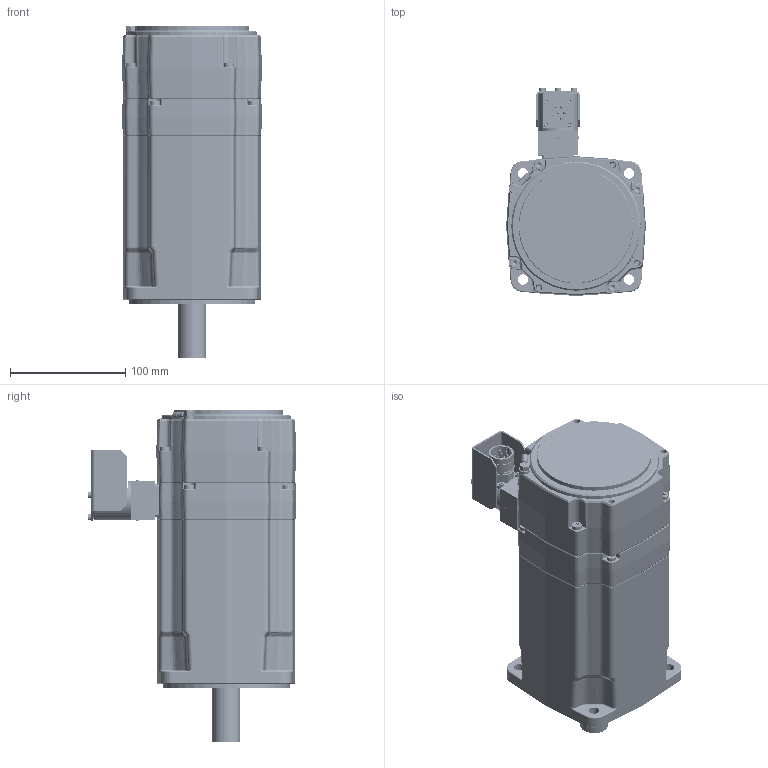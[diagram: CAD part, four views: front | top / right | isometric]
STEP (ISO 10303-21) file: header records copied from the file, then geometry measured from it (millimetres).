
FILE_DESCRIPTION((''),'2;1');
FILE_NAME('EY630EYR7010_ASM','2017-09-29T',('pf73167'),(''),'PRO/ENGINEER BY PARAMETRIC TECHNOLOGY CORPORATION, 2009400','PRO/ENGINEER BY PARAMETRIC TECHNOLOGY CORPORATION, 2009400','');
FILE_SCHEMA(('CONFIG_CONTROL_DESIGN'));
Length unit declared in the file: millimetre
Products named in the file (42): 344187P0020; 5116P1315; 301026P0030; 1150P0412; 344185P0002; 344182P0002; 344212P0001; 344182P0002_ASM; 220087P0013; 344186R0002_ASM; 5116P1319; 1645P0018; 1711P0019; 344181P0002; 344226R3000; 344562P0001; 344570P0001_ENROULE; 344229R3000_ASM; 344183P0005; 344184R3008_ASM; 1143P0515; 5320P0028; 5340P0002; 344191P0022; 1642P0105; 6620P0014; 1145P0508; 345359P0002; 5340P0124; 5340P0125; 1150P0204; 345359P0001; 1170P0042; 220132P1010_0001; 220132P1010_0002; 220132P0111; 220132P0120; 220132P1010_ASM; 345359P0003; 1150P0305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
Assembly tree (106 placements, depth 4):
  EY630EYR7010_ASM
    344187P0020
    5116P1315
    301026P0030
    1150P0412  x3
    344186R0002_ASM
      344185P0002
      344182P0002_ASM
        344182P0002
        344212P0001  x2
      220087P0013  x30
    5116P1319
    1645P0018  x2
    1711P0019
    344184R3008_ASM
      344229R3000_ASM
        344181P0002
        344226R3000  x6
        344562P0001  x2
        344570P0001_ENROULE  x2
      344183P0005
    1143P0515  x8
    5320P0028
    5340P0002  x2
    344191P0022
    1642P0105
    6620P0014
    1145P0508
    345359R1010_800_ASM
      345359P0002
      5340P0124
      5340P0125
      1150P0204  x8
      345359P0001
      1170P0042  x4
      220132P1010_ASM
        220132P1010_0001
        220132P1010_0002
        220132P0111  x4
        220132P0120  x3
      345359P0003
      1150P0305  x3
Bounding box: 121 x 180.2 x 287.6 mm (x, y, z)
Volume: 1930647.3 mm3; surface area: 729542.6 mm2
Topology: 104 solids, 168 shells, 6391 faces, 15277 edges, 9279 vertices
Faces by surface type: cylinder 2230, plane 1961, bspline 1014, cone 750, torus 385, sphere 31, extrusion 20
Entity records: 148842 total; most frequent: CARTESIAN_POINT 54420, ORIENTED_EDGE 19714, DIRECTION 19273, EDGE_CURVE 9899, AXIS2_PLACEMENT_3D 7291, VERTEX_POINT 6165, VECTOR 4691, LINE 4671
